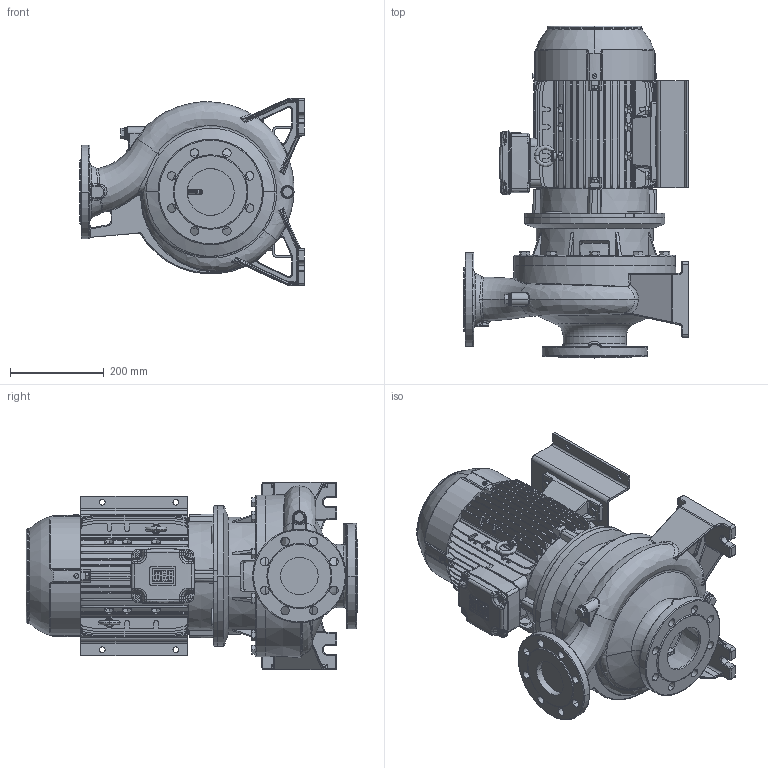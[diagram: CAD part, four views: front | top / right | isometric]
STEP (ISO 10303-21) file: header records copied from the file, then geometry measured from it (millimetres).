
FILE_DESCRIPTION (( 'STEP AP214' ), '1' );
FILE_NAME ('3LS4 80-250_7.5_(132S)_W21.STEP', '2026-10-05T01:44:14', ( '' ), ( '' ), 'SwSTEP 2.0', 'SolidWorks 2024', '' );
FILE_SCHEMA (( 'AUTOMOTIVE_DESIGN' ));
Length unit declared in the file: inch
Products named in the file (3): 132S ALIE3_W21T_B35; 3SF4_80-250_7_5; 3LS4 80-250_7.5_(132S)_W21
Assembly tree (2 placements, depth 2):
  3LS4 80-250_7.5_(132S)_W21
    3SF4_80-250_7_5
    132S ALIE3_W21T_B35
Bounding box: 480 x 708.8 x 400 mm (x, y, z)
Volume: 37924516.3 mm3; surface area: 2426648.7 mm2
Topology: 10 solids, 10 shells, 4229 faces, 10814 edges, 6911 vertices
Faces by surface type: plane 2687, cylinder 747, bspline 358, torus 232, cone 159, sphere 46
Entity records: 158943 total; most frequent: CARTESIAN_POINT 59810, ORIENTED_EDGE 21568, DIRECTION 18852, EDGE_CURVE 10784, LINE 7160, VECTOR 7160, VERTEX_POINT 6907, AXIS2_PLACEMENT_3D 5846
